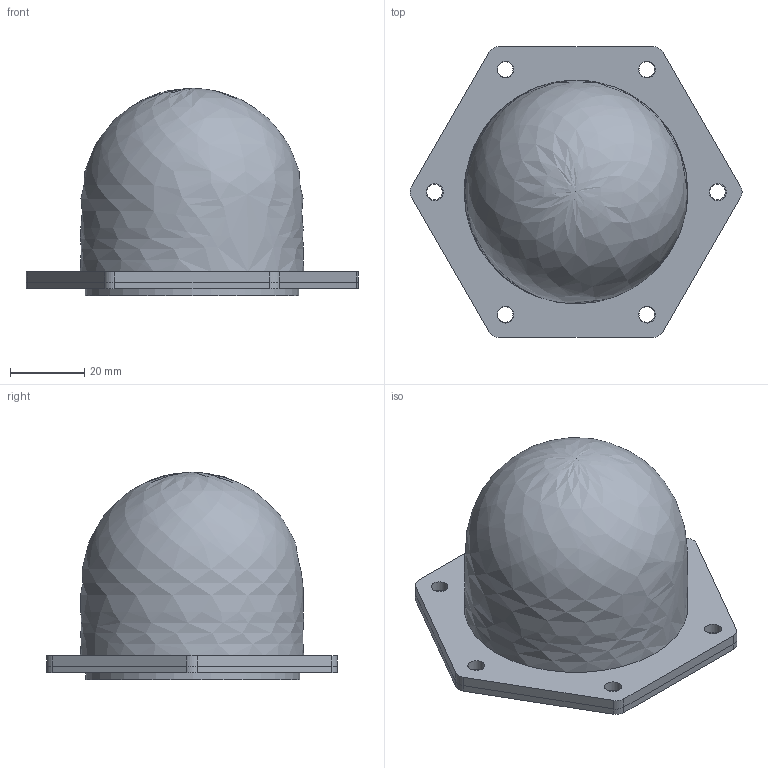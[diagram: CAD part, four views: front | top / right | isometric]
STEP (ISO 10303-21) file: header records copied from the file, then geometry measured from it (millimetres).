
FILE_DESCRIPTION(('FreeCAD Model'),'2;1');
FILE_NAME('Open CASCADE Shape Model','2025-02-21T19:42:41',(''),(''), 'Open CASCADE STEP processor 7.6','FreeCAD','Unknown');
FILE_SCHEMA(('AUTOMOTIVE_DESIGN { 1 0 10303 214 1 1 1 1 }'));
Length unit declared in the file: millimetre
Products named in the file (3): DomeD60H52_; DomeD60H52; DomeD60H005
Assembly tree (2 placements, depth 2):
  DomeD60H52_
    DomeD60H52
    DomeD60H005
Bounding box: 89.14 x 78 x 55.6 mm (x, y, z)
Volume: 29306.9 mm3; surface area: 27059.8 mm2
Topology: 2 solids, 2 shells, 54 faces, 126 edges, 84 vertices
Faces by surface type: cylinder 28, plane 24, revolution 2
Full cylindrical faces by diameter (mm): 4.2 x6, 4.5 x6, 55.4 x1, 57.4 x1, 61.8 x1, 70 x1
Entity records: 1672 total; most frequent: CARTESIAN_POINT 295, DIRECTION 292, ORIENTED_EDGE 248, EDGE_CURVE 124, AXIS2_PLACEMENT_3D 119, VERTEX_POINT 84, FACE_BOUND 78, EDGE_LOOP 78
